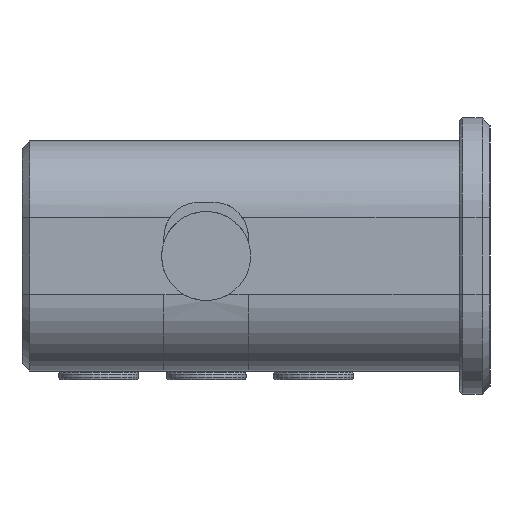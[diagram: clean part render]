
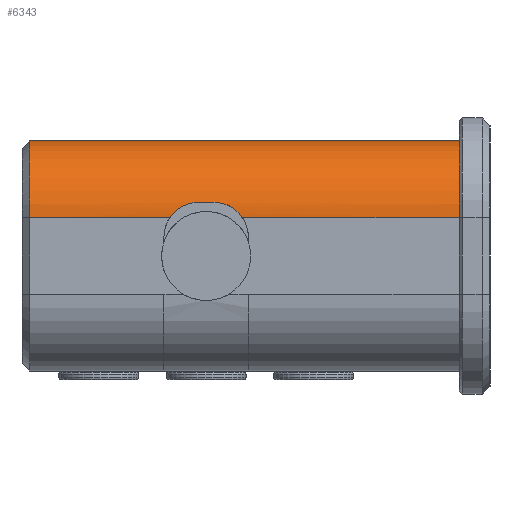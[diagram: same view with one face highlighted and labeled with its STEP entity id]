
A CAD part, left-side view. The second image highlights one B-rep face of the part: STEP entity #6343.
In plain terms, the highlighted cylindrical face has radius 5 mm (diameter 10 mm), a partial arc.
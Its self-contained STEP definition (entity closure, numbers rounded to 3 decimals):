
#19=B_SPLINE_CURVE_WITH_KNOTS('',3,(#10398,#10399,#10400,#10401,#10402,
#10403,#10404,#10405),.UNSPECIFIED.,.F.,.F.,(4,2,2,4),(1.197,
1.239,1.325,1.41),.UNSPECIFIED.);
#20=B_SPLINE_CURVE_WITH_KNOTS('',3,(#10417,#10418,#10419,#10420,#10421,
#10422,#10423,#10424),.UNSPECIFIED.,.F.,.F.,(4,2,2,4),(0.705,
0.791,0.876,0.918),.UNSPECIFIED.);
#246=CYLINDRICAL_SURFACE('',#7027,5.);
#570=FACE_OUTER_BOUND('',#978,.T.);
#978=EDGE_LOOP('',(#5342,#5343,#5344,#5345,#5346,#5347,#5348,#5349));
#1345=LINE('',#10335,#1881);
#1372=LINE('',#10411,#1908);
#1473=LINE('',#10722,#2009);
#1474=LINE('',#10725,#2010);
#1881=VECTOR('',#8361,5.);
#1908=VECTOR('',#8432,10.);
#2009=VECTOR('',#8757,10.);
#2010=VECTOR('',#8760,10.);
#2447=CIRCLE('',#7018,5.);
#2452=CIRCLE('',#7028,5.);
#2848=VERTEX_POINT('',#10332);
#2849=VERTEX_POINT('',#10334);
#2867=VERTEX_POINT('',#10397);
#2868=VERTEX_POINT('',#10410);
#2869=VERTEX_POINT('',#10416);
#2949=VERTEX_POINT('',#10689);
#2951=VERTEX_POINT('',#10695);
#2959=VERTEX_POINT('',#10723);
#3597=EDGE_CURVE('',#2849,#2848,#1345,.T.);
#3631=EDGE_CURVE('',#2849,#2867,#19,.T.);
#3634=EDGE_CURVE('',#2868,#2867,#1372,.T.);
#3637=EDGE_CURVE('',#2869,#2868,#20,.F.);
#3774=EDGE_CURVE('',#2949,#2951,#2447,.T.);
#3786=EDGE_CURVE('',#2869,#2949,#1473,.F.);
#3787=EDGE_CURVE('',#2848,#2959,#2452,.T.);
#3788=EDGE_CURVE('',#2951,#2959,#1474,.T.);
#5342=ORIENTED_EDGE('',*,*,#3774,.F.);
#5343=ORIENTED_EDGE('',*,*,#3786,.F.);
#5344=ORIENTED_EDGE('',*,*,#3637,.T.);
#5345=ORIENTED_EDGE('',*,*,#3634,.T.);
#5346=ORIENTED_EDGE('',*,*,#3631,.F.);
#5347=ORIENTED_EDGE('',*,*,#3597,.T.);
#5348=ORIENTED_EDGE('',*,*,#3787,.T.);
#5349=ORIENTED_EDGE('',*,*,#3788,.F.);
#6343=ADVANCED_FACE('',(#570),#246,.T.);
#7018=AXIS2_PLACEMENT_3D('',#10699,#8730,#8731);
#7027=AXIS2_PLACEMENT_3D('',#10721,#8755,#8756);
#7028=AXIS2_PLACEMENT_3D('',#10724,#8758,#8759);
#8361=DIRECTION('',(0.,-1.,0.));
#8432=DIRECTION('',(0.,-1.,0.));
#8730=DIRECTION('center_axis',(0.,1.,0.));
#8731=DIRECTION('ref_axis',(0.,0.,1.));
#8755=DIRECTION('center_axis',(0.,-1.,0.));
#8756=DIRECTION('ref_axis',(0.,0.,1.));
#8757=DIRECTION('',(0.,-1.,0.));
#8758=DIRECTION('center_axis',(0.,1.,0.));
#8759=DIRECTION('ref_axis',(0.,0.,1.));
#8760=DIRECTION('',(0.,-1.,0.));
#10332=CARTESIAN_POINT('',(-70.5,-34.5,-6.5));
#10334=CARTESIAN_POINT('',(-70.5,-20.371,-6.5));
#10335=CARTESIAN_POINT('',(-70.5,0.5,-6.5));
#10397=CARTESIAN_POINT('',(-70.399,-18.5,-5.5));
#10398=CARTESIAN_POINT('Ctrl Pts',(-70.5,-20.371,-6.5));
#10399=CARTESIAN_POINT('Ctrl Pts',(-70.5,-20.29,-6.378));
#10400=CARTESIAN_POINT('Ctrl Pts',(-70.496,-20.197,
-6.266));
#10401=CARTESIAN_POINT('Ctrl Pts',(-70.475,-19.899,
-5.965));
#10402=CARTESIAN_POINT('Ctrl Pts',(-70.451,-19.645,
-5.79));
#10403=CARTESIAN_POINT('Ctrl Pts',(-70.412,-19.088,
-5.557));
#10404=CARTESIAN_POINT('Ctrl Pts',(-70.399,-18.785,
-5.5));
#10405=CARTESIAN_POINT('Ctrl Pts',(-70.399,-18.5,-5.5));
#10410=CARTESIAN_POINT('',(-70.399,-17.5,-5.5));
#10411=CARTESIAN_POINT('',(-70.399,0.5,-5.5));
#10416=CARTESIAN_POINT('',(-70.5,-15.629,-6.5));
#10417=CARTESIAN_POINT('Ctrl Pts',(-70.399,-17.5,
-5.5));
#10418=CARTESIAN_POINT('Ctrl Pts',(-70.399,-17.215,
-5.5));
#10419=CARTESIAN_POINT('Ctrl Pts',(-70.412,-16.912,
-5.557));
#10420=CARTESIAN_POINT('Ctrl Pts',(-70.451,-16.355,
-5.79));
#10421=CARTESIAN_POINT('Ctrl Pts',(-70.475,-16.101,
-5.965));
#10422=CARTESIAN_POINT('Ctrl Pts',(-70.496,-15.803,
-6.266));
#10423=CARTESIAN_POINT('Ctrl Pts',(-70.5,-15.71,-6.378));
#10424=CARTESIAN_POINT('Ctrl Pts',(-70.5,-15.629,-6.5));
#10689=CARTESIAN_POINT('',(-70.5,-6.5,-6.5));
#10695=CARTESIAN_POINT('',(-65.5,-6.5,-1.5));
#10699=CARTESIAN_POINT('Origin',(-65.5,-6.5,-6.5));
#10721=CARTESIAN_POINT('Origin',(-65.5,0.5,-6.5));
#10722=CARTESIAN_POINT('',(-70.5,0.5,-6.5));
#10723=CARTESIAN_POINT('',(-65.5,-34.5,-1.5));
#10724=CARTESIAN_POINT('Origin',(-65.5,-34.5,-6.5));
#10725=CARTESIAN_POINT('',(-65.5,0.5,-1.5));
